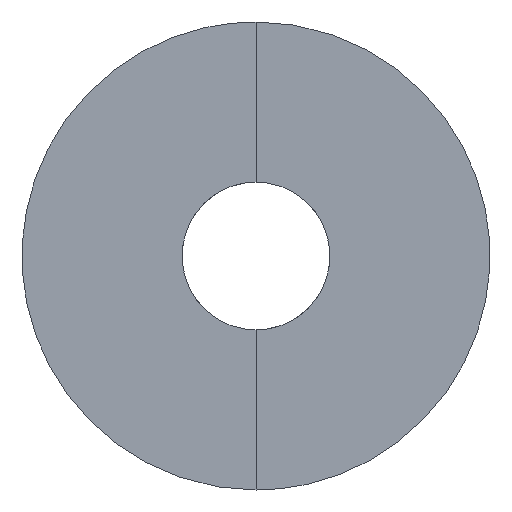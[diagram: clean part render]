
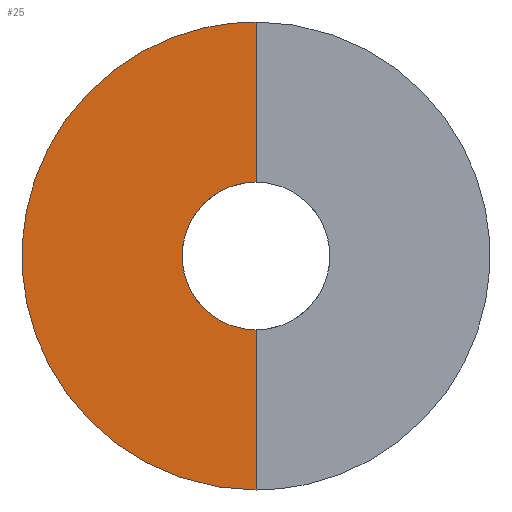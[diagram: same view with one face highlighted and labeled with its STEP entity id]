
A CAD part, left-side view. The second image highlights one B-rep face of the part: STEP entity #25.
In plain terms, the highlighted free-form (B-spline) face has degree [2, 1] with [9, 2] control points.
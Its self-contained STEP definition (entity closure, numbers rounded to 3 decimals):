
#25=ADVANCED_FACE('',(#33),#233,.T.);
#33=FACE_OUTER_BOUND('',#41,.T.);
#41=EDGE_LOOP('',(#52,#53,#54,#55));
#52=ORIENTED_EDGE('',*,*,#172,.T.);
#53=ORIENTED_EDGE('',*,*,#173,.T.);
#54=ORIENTED_EDGE('',*,*,#174,.T.);
#55=ORIENTED_EDGE('',*,*,#169,.F.);
#80=(
BOUNDED_CURVE()
B_SPLINE_CURVE(2,(#419,#420,#421,#422,#423),.UNSPECIFIED.,.F.,.F.)
B_SPLINE_CURVE_WITH_KNOTS((3,2,3),(-3.142,-1.571,0.),
 .UNSPECIFIED.)
CURVE()
GEOMETRIC_REPRESENTATION_ITEM()
RATIONAL_B_SPLINE_CURVE((1.,0.707,1.,0.707,1.))
REPRESENTATION_ITEM('')
);
#82=(
BOUNDED_CURVE()
B_SPLINE_CURVE(2,(#441,#442,#443,#444,#445),.UNSPECIFIED.,.F.,.F.)
B_SPLINE_CURVE_WITH_KNOTS((3,2,3),(-3.142,-1.571,0.),
 .UNSPECIFIED.)
CURVE()
GEOMETRIC_REPRESENTATION_ITEM()
RATIONAL_B_SPLINE_CURVE((1.,0.707,1.,0.707,1.))
REPRESENTATION_ITEM('')
);
#89=PCURVE('',#232,#121);
#92=PCURVE('',#233,#124);
#93=PCURVE('',#233,#125);
#94=PCURVE('',#233,#126);
#95=PCURVE('',#233,#127);
#99=PCURVE('',#234,#131);
#109=PCURVE('',#237,#141);
#111=PCURVE('',#237,#143);
#121=DEFINITIONAL_REPRESENTATION('',(#186),#535);
#124=DEFINITIONAL_REPRESENTATION('',(#191),#535);
#125=DEFINITIONAL_REPRESENTATION('',(#192),#535);
#126=DEFINITIONAL_REPRESENTATION('',(#194),#535);
#127=DEFINITIONAL_REPRESENTATION('',(#195),#535);
#131=DEFINITIONAL_REPRESENTATION('',(#201),#535);
#141=DEFINITIONAL_REPRESENTATION('',(#213),#535);
#143=DEFINITIONAL_REPRESENTATION('',(#215),#535);
#153=SURFACE_CURVE('',#80,(#89,#95),.PCURVE_S1.);
#156=SURFACE_CURVE('',#190,(#92,#111),.PCURVE_S1.);
#157=SURFACE_CURVE('',#82,(#93,#99),.PCURVE_S1.);
#158=SURFACE_CURVE('',#193,(#94,#109),.PCURVE_S1.);
#169=EDGE_CURVE('',#229,#224,#153,.T.);
#172=EDGE_CURVE('',#229,#230,#156,.T.);
#173=EDGE_CURVE('',#230,#227,#157,.T.);
#174=EDGE_CURVE('',#227,#224,#158,.T.);
#186=B_SPLINE_CURVE_WITH_KNOTS('',1,(#424,#425),.UNSPECIFIED.,.F.,.F.,(2,
2),(-3.142,0.),.UNSPECIFIED.);
#190=B_SPLINE_CURVE_WITH_KNOTS('',1,(#437,#438),.UNSPECIFIED.,.F.,.F.,(2,
2),(0.,6.5),.UNSPECIFIED.);
#191=B_SPLINE_CURVE_WITH_KNOTS('',1,(#439,#440),.UNSPECIFIED.,.F.,.F.,(2,
2),(0.,6.5),.UNSPECIFIED.);
#192=B_SPLINE_CURVE_WITH_KNOTS('',1,(#446,#447),.UNSPECIFIED.,.F.,.F.,(2,
2),(-3.142,0.),.UNSPECIFIED.);
#193=B_SPLINE_CURVE_WITH_KNOTS('',1,(#448,#449),.UNSPECIFIED.,.F.,.F.,(2,
2),(-6.5,0.),.UNSPECIFIED.);
#194=B_SPLINE_CURVE_WITH_KNOTS('',1,(#450,#451),.UNSPECIFIED.,.F.,.F.,(2,
2),(-6.5,0.),.UNSPECIFIED.);
#195=B_SPLINE_CURVE_WITH_KNOTS('',1,(#452,#453),.UNSPECIFIED.,.F.,.F.,(2,
2),(-3.142,0.),.UNSPECIFIED.);
#201=B_SPLINE_CURVE_WITH_KNOTS('',1,(#469,#470),.UNSPECIFIED.,.F.,.F.,(2,
2),(-3.142,0.),.UNSPECIFIED.);
#213=B_SPLINE_CURVE_WITH_KNOTS('',1,(#503,#504),.UNSPECIFIED.,.F.,.F.,(2,
2),(-6.5,0.),.UNSPECIFIED.);
#215=B_SPLINE_CURVE_WITH_KNOTS('',1,(#512,#513),.UNSPECIFIED.,.F.,.F.,(2,
2),(0.,6.5),.UNSPECIFIED.);
#224=VERTEX_POINT('',#407);
#227=VERTEX_POINT('',#410);
#229=VERTEX_POINT('',#412);
#230=VERTEX_POINT('',#413);
#232=(
BOUNDED_SURFACE()
B_SPLINE_SURFACE(2,1,((#263,#264),(#265,#266),(#267,#268),(#269,#270),(#271,
#272),(#273,#274),(#275,#276),(#277,#278),(#279,#280)),.UNSPECIFIED.,.T.,
 .F.,.F.)
B_SPLINE_SURFACE_WITH_KNOTS((3,2,2,2,3),(2,2),(0.,1.571,3.142,
4.712,6.283),(19.,25.),.UNSPECIFIED.)
GEOMETRIC_REPRESENTATION_ITEM()
RATIONAL_B_SPLINE_SURFACE(((1.,1.),(0.707,0.707),
(1.,1.),(0.707,0.707),(1.,1.),(0.707,
0.707),(1.,1.),(0.707,0.707),(1.,1.)))
REPRESENTATION_ITEM('')
SURFACE()
);
#233=(
BOUNDED_SURFACE()
B_SPLINE_SURFACE(2,1,((#281,#282),(#283,#284),(#285,#286),(#287,#288),(#289,
#290),(#291,#292),(#293,#294),(#295,#296),(#297,#298)),.UNSPECIFIED.,.T.,
 .F.,.F.)
B_SPLINE_SURFACE_WITH_KNOTS((3,2,2,2,3),(2,2),(0.,1.571,3.142,
4.712,6.283),(0.,6.5),.UNSPECIFIED.)
GEOMETRIC_REPRESENTATION_ITEM()
RATIONAL_B_SPLINE_SURFACE(((1.,1.),(0.707,0.707),
(1.,1.),(0.707,0.707),(1.,1.),(0.707,
0.707),(1.,1.),(0.707,0.707),(1.,1.)))
REPRESENTATION_ITEM('')
SURFACE()
);
#234=(
BOUNDED_SURFACE()
B_SPLINE_SURFACE(2,1,((#299,#300),(#301,#302),(#303,#304),(#305,#306),(#307,
#308),(#309,#310),(#311,#312),(#313,#314),(#315,#316)),.UNSPECIFIED.,.T.,
 .F.,.F.)
B_SPLINE_SURFACE_WITH_KNOTS((3,2,2,2,3),(2,2),(0.,1.571,3.142,
4.712,6.283),(6.5,12.5),.UNSPECIFIED.)
GEOMETRIC_REPRESENTATION_ITEM()
RATIONAL_B_SPLINE_SURFACE(((1.,1.),(0.707,0.707),
(1.,1.),(0.707,0.707),(1.,1.),(0.707,
0.707),(1.,1.),(0.707,0.707),(1.,1.)))
REPRESENTATION_ITEM('')
SURFACE()
);
#237=(
BOUNDED_SURFACE()
B_SPLINE_SURFACE(2,1,((#353,#354),(#355,#356),(#357,#358),(#359,#360),(#361,
#362),(#363,#364),(#365,#366),(#367,#368),(#369,#370)),.UNSPECIFIED.,.T.,
 .F.,.F.)
B_SPLINE_SURFACE_WITH_KNOTS((3,2,2,2,3),(2,2),(0.,1.571,3.142,
4.712,6.283),(0.,6.5),.UNSPECIFIED.)
GEOMETRIC_REPRESENTATION_ITEM()
RATIONAL_B_SPLINE_SURFACE(((1.,1.),(0.707,0.707),
(1.,1.),(0.707,0.707),(1.,1.),(0.707,
0.707),(1.,1.),(0.707,0.707),(1.,1.)))
REPRESENTATION_ITEM('')
SURFACE()
);
#263=CARTESIAN_POINT('',(-696.,285.,33.));
#264=CARTESIAN_POINT('',(-702.,285.,33.));
#265=CARTESIAN_POINT('',(-696.,288.,33.));
#266=CARTESIAN_POINT('',(-702.,288.,33.));
#267=CARTESIAN_POINT('',(-696.,288.,30.));
#268=CARTESIAN_POINT('',(-702.,288.,30.));
#269=CARTESIAN_POINT('',(-696.,288.,27.));
#270=CARTESIAN_POINT('',(-702.,288.,27.));
#271=CARTESIAN_POINT('',(-696.,285.,27.));
#272=CARTESIAN_POINT('',(-702.,285.,27.));
#273=CARTESIAN_POINT('',(-696.,282.,27.));
#274=CARTESIAN_POINT('',(-702.,282.,27.));
#275=CARTESIAN_POINT('',(-696.,282.,30.));
#276=CARTESIAN_POINT('',(-702.,282.,30.));
#277=CARTESIAN_POINT('',(-696.,282.,33.));
#278=CARTESIAN_POINT('',(-702.,282.,33.));
#279=CARTESIAN_POINT('',(-696.,285.,33.));
#280=CARTESIAN_POINT('',(-702.,285.,33.));
#281=CARTESIAN_POINT('',(-702.,285.,33.));
#282=CARTESIAN_POINT('',(-702.,285.,39.5));
#283=CARTESIAN_POINT('',(-702.,288.,33.));
#284=CARTESIAN_POINT('',(-702.,294.5,39.5));
#285=CARTESIAN_POINT('',(-702.,288.,30.));
#286=CARTESIAN_POINT('',(-702.,294.5,30.));
#287=CARTESIAN_POINT('',(-702.,288.,27.));
#288=CARTESIAN_POINT('',(-702.,294.5,20.5));
#289=CARTESIAN_POINT('',(-702.,285.,27.));
#290=CARTESIAN_POINT('',(-702.,285.,20.5));
#291=CARTESIAN_POINT('',(-702.,282.,27.));
#292=CARTESIAN_POINT('',(-702.,275.5,20.5));
#293=CARTESIAN_POINT('',(-702.,282.,30.));
#294=CARTESIAN_POINT('',(-702.,275.5,30.));
#295=CARTESIAN_POINT('',(-702.,282.,33.));
#296=CARTESIAN_POINT('',(-702.,275.5,39.5));
#297=CARTESIAN_POINT('',(-702.,285.,33.));
#298=CARTESIAN_POINT('',(-702.,285.,39.5));
#299=CARTESIAN_POINT('',(-702.,285.,39.5));
#300=CARTESIAN_POINT('',(-696.,285.,39.5));
#301=CARTESIAN_POINT('',(-702.,294.5,39.5));
#302=CARTESIAN_POINT('',(-696.,294.5,39.5));
#303=CARTESIAN_POINT('',(-702.,294.5,30.));
#304=CARTESIAN_POINT('',(-696.,294.5,30.));
#305=CARTESIAN_POINT('',(-702.,294.5,20.5));
#306=CARTESIAN_POINT('',(-696.,294.5,20.5));
#307=CARTESIAN_POINT('',(-702.,285.,20.5));
#308=CARTESIAN_POINT('',(-696.,285.,20.5));
#309=CARTESIAN_POINT('',(-702.,275.5,20.5));
#310=CARTESIAN_POINT('',(-696.,275.5,20.5));
#311=CARTESIAN_POINT('',(-702.,275.5,30.));
#312=CARTESIAN_POINT('',(-696.,275.5,30.));
#313=CARTESIAN_POINT('',(-702.,275.5,39.5));
#314=CARTESIAN_POINT('',(-696.,275.5,39.5));
#315=CARTESIAN_POINT('',(-702.,285.,39.5));
#316=CARTESIAN_POINT('',(-696.,285.,39.5));
#353=CARTESIAN_POINT('',(-702.,285.,33.));
#354=CARTESIAN_POINT('',(-702.,285.,39.5));
#355=CARTESIAN_POINT('',(-702.,288.,33.));
#356=CARTESIAN_POINT('',(-702.,294.5,39.5));
#357=CARTESIAN_POINT('',(-702.,288.,30.));
#358=CARTESIAN_POINT('',(-702.,294.5,30.));
#359=CARTESIAN_POINT('',(-702.,288.,27.));
#360=CARTESIAN_POINT('',(-702.,294.5,20.5));
#361=CARTESIAN_POINT('',(-702.,285.,27.));
#362=CARTESIAN_POINT('',(-702.,285.,20.5));
#363=CARTESIAN_POINT('',(-702.,282.,27.));
#364=CARTESIAN_POINT('',(-702.,275.5,20.5));
#365=CARTESIAN_POINT('',(-702.,282.,30.));
#366=CARTESIAN_POINT('',(-702.,275.5,30.));
#367=CARTESIAN_POINT('',(-702.,282.,33.));
#368=CARTESIAN_POINT('',(-702.,275.5,39.5));
#369=CARTESIAN_POINT('',(-702.,285.,33.));
#370=CARTESIAN_POINT('',(-702.,285.,39.5));
#407=CARTESIAN_POINT('',(-702.,285.,33.));
#410=CARTESIAN_POINT('',(-702.,285.,39.5));
#412=CARTESIAN_POINT('',(-702.,285.,27.));
#413=CARTESIAN_POINT('',(-702.,285.,20.5));
#419=CARTESIAN_POINT('',(-702.,285.,27.));
#420=CARTESIAN_POINT('',(-702.,288.,27.));
#421=CARTESIAN_POINT('',(-702.,288.,30.));
#422=CARTESIAN_POINT('',(-702.,288.,33.));
#423=CARTESIAN_POINT('',(-702.,285.,33.));
#424=CARTESIAN_POINT('',(3.142,25.));
#425=CARTESIAN_POINT('',(0.,25.));
#437=CARTESIAN_POINT('',(-702.,285.,27.));
#438=CARTESIAN_POINT('',(-702.,285.,20.5));
#439=CARTESIAN_POINT('',(3.142,0.));
#440=CARTESIAN_POINT('',(3.142,6.5));
#441=CARTESIAN_POINT('',(-702.,285.,20.5));
#442=CARTESIAN_POINT('',(-702.,294.5,20.5));
#443=CARTESIAN_POINT('',(-702.,294.5,30.));
#444=CARTESIAN_POINT('',(-702.,294.5,39.5));
#445=CARTESIAN_POINT('',(-702.,285.,39.5));
#446=CARTESIAN_POINT('',(3.142,6.5));
#447=CARTESIAN_POINT('',(0.,6.5));
#448=CARTESIAN_POINT('',(-702.,285.,39.5));
#449=CARTESIAN_POINT('',(-702.,285.,33.));
#450=CARTESIAN_POINT('',(0.,6.5));
#451=CARTESIAN_POINT('',(0.,0.));
#452=CARTESIAN_POINT('',(3.142,0.));
#453=CARTESIAN_POINT('',(0.,0.));
#469=CARTESIAN_POINT('',(3.142,6.5));
#470=CARTESIAN_POINT('',(0.,6.5));
#503=CARTESIAN_POINT('',(6.283,6.5));
#504=CARTESIAN_POINT('',(6.283,0.));
#512=CARTESIAN_POINT('',(3.142,0.));
#513=CARTESIAN_POINT('',(3.142,6.5));
#535=(
GEOMETRIC_REPRESENTATION_CONTEXT(2)
PARAMETRIC_REPRESENTATION_CONTEXT()
REPRESENTATION_CONTEXT('pspace','')
);
